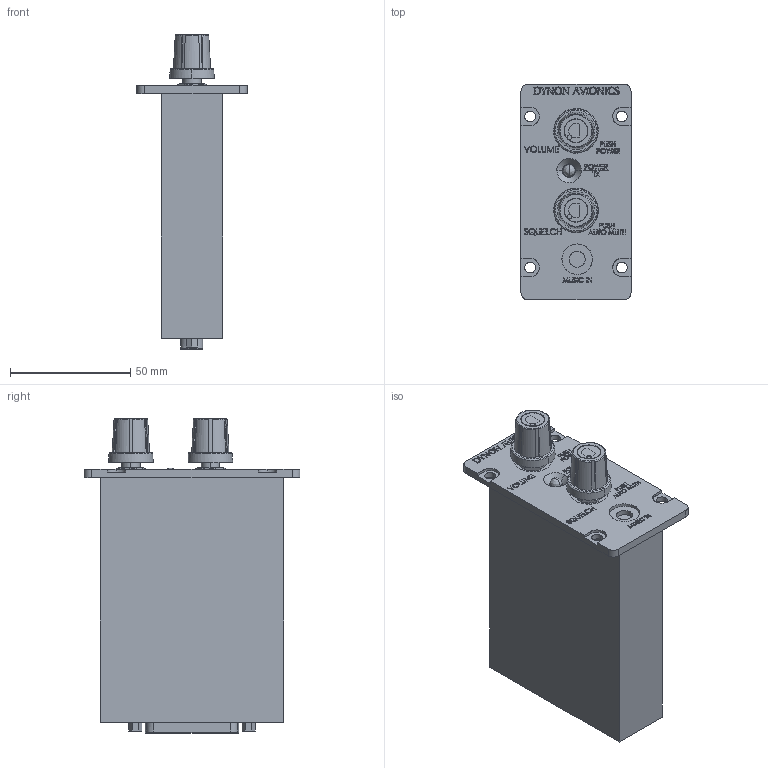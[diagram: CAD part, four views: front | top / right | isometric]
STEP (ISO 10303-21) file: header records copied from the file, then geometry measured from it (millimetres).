
FILE_DESCRIPTION (( 'STEP AP214' ), '1' );
FILE_NAME ('SV-INTERCOM-2S Dynon Intercom Solid Model Vertical.STEP', '2024-05-16T16:06:52', ( '' ), ( '' ), 'SwSTEP 2.0', 'SolidWorks 2023', '' );
FILE_SCHEMA (( 'AUTOMOTIVE_DESIGN' ));
Products named in the file (1): SV-INTERCOM-2S Dynon Intercom Solid Model Vertical
Bounding box: 45.72 x 89.71 x 130.65 mm (x, y, z)
Surface area: 34913.2 mm2 (no closed solid volume)
Topology: 0 solids, 3 shells, 1186 faces, 3073 edges, 2021 vertices
Faces by surface type: bspline 1186
Entity records: 63709 total; most frequent: CARTESIAN_POINT 44858, ORIENTED_EDGE 6138, EDGE_CURVE 3071, B_SPLINE_CURVE_WITH_KNOTS 2788, VERTEX_POINT 2021, EDGE_LOOP 1325, ADVANCED_FACE 1186, FACE_OUTER_BOUND 1186
